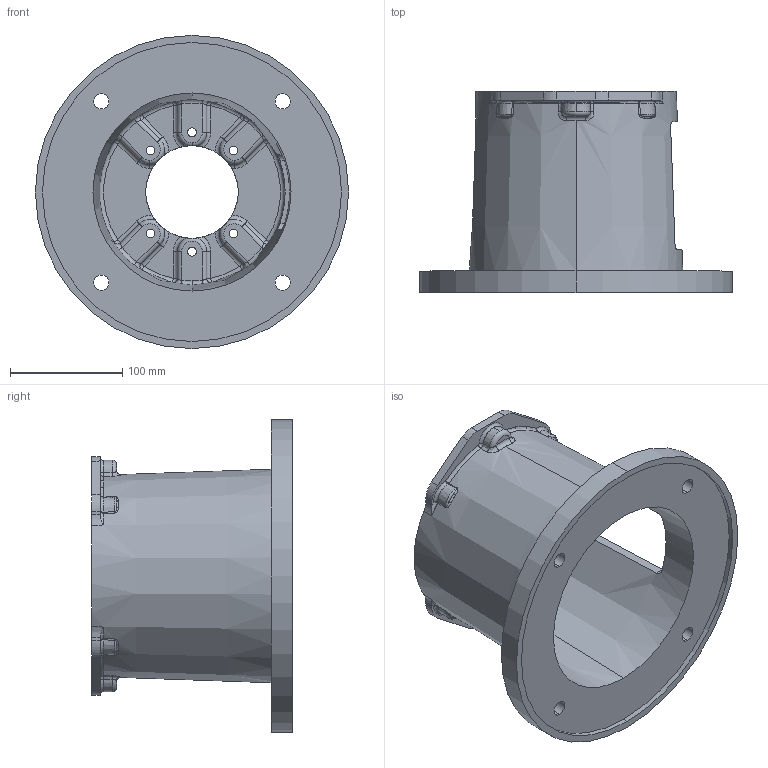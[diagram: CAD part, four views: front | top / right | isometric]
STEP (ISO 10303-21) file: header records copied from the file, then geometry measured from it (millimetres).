
FILE_DESCRIPTION (( 'STEP AP203' ), '1' );
FILE_NAME ('M284682A.STEP', '2007-12-21T20:55:16', ( 'Chris McCoy' ), ( 'Magnaloy Coupling Co' ), 'SwSTEP 2.0', 'SolidWorks 2007', '' );
FILE_SCHEMA (( 'CONFIG_CONTROL_DESIGN' ));
Length unit declared in the file: inch
Products named in the file (1): M284682A
Bounding box: 279.4 x 179.32 x 279.4 mm (x, y, z)
Volume: 1408755.8 mm3; surface area: 314923 mm2
Topology: 1 solids, 1 shells, 355 faces, 902 edges, 531 vertices
Faces by surface type: torus 107, cylinder 86, bspline 64, plane 50, sphere 24, cone 24
Entity records: 14683 total; most frequent: CARTESIAN_POINT 6531, ORIENTED_EDGE 1764, DIRECTION 1692, EDGE_CURVE 882, AXIS2_PLACEMENT_3D 766, VERTEX_POINT 531, CIRCLE 474, EDGE_LOOP 381
